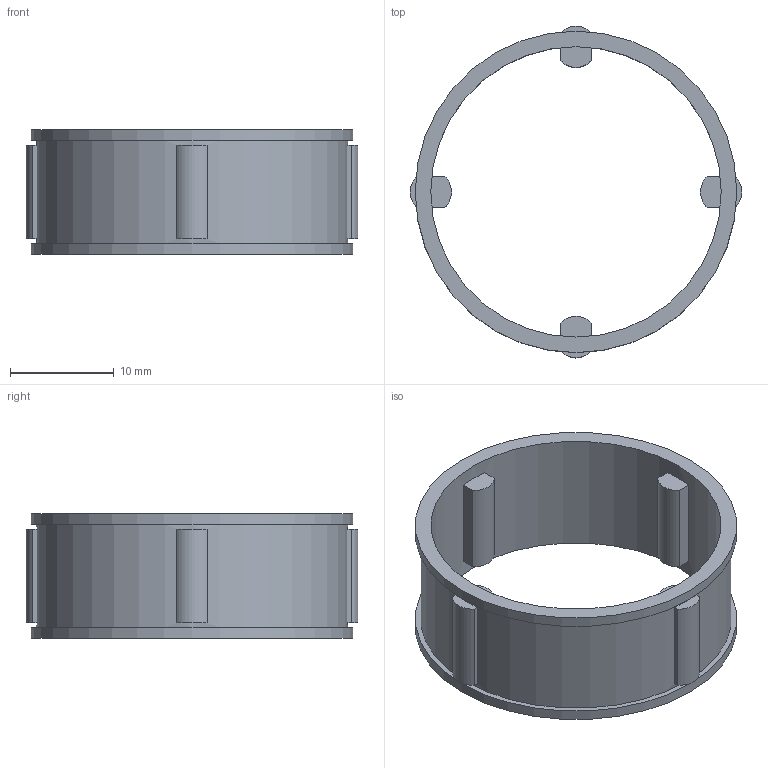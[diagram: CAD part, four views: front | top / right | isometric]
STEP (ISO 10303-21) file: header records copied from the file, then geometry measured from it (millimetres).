
FILE_DESCRIPTION(/* description */ (''),/* implementation_level */ '2;1');
FILE_NAME(/* name */ '300439 FE 432 Z.stp',/* time_stamp */ '2016-11-03T10:00:27+01:00',/* author */ (''),/* organization */ (''),/* preprocessor_version */ 'ST-DEVELOPER v15',/* originating_system */ 'SIEMENS PLM Software NX 8.5',/* authorisation */ '');
FILE_SCHEMA (('CONFIG_CONTROL_DESIGN'));
Length unit declared in the file: millimetre
Products named in the file (1): ATE0000080_01
Bounding box: 32 x 32 x 12 mm (x, y, z)
Volume: 1464.5 mm3; surface area: 2776.5 mm2
Topology: 1 solids, 1 shells, 48 faces, 114 edges, 76 vertices
Faces by surface type: plane 36, cylinder 12
Full cylindrical faces by diameter (mm): 28 x1, 30 x1, 31 x2
Entity records: 1420 total; most frequent: DIRECTION 242, CARTESIAN_POINT 225, ORIENTED_EDGE 208, EDGE_CURVE 104, AXIS2_PLACEMENT_3D 89, VERTEX_POINT 72, LINE 64, VECTOR 64
